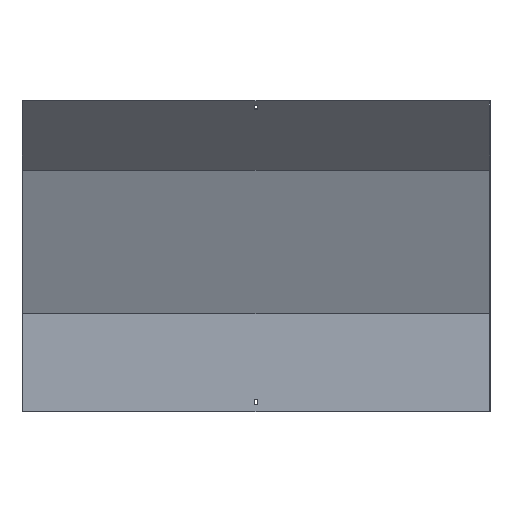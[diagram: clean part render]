
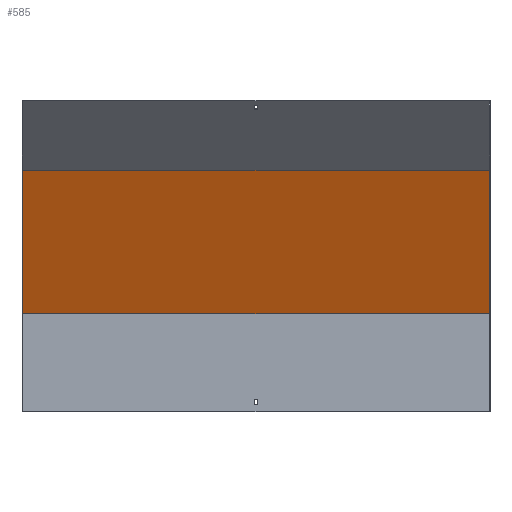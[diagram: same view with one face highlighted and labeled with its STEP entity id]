
A CAD part, front view. The second image highlights one B-rep face of the part: STEP entity #585.
In plain terms, the highlighted planar face has unit normal (0, -0.924, -0.383).
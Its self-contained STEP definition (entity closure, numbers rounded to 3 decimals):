
#4 = CARTESIAN_POINT ( 'NONE',  ( 400., 18.5, 168.68 ) ) ;
#55 = ORIENTED_EDGE ( 'NONE', *, *, #758, .F. ) ;
#84 = CARTESIAN_POINT ( 'NONE',  ( 401.5, 17.092, 172.08 ) ) ;
#85 = CARTESIAN_POINT ( 'NONE',  ( -400., 75.428, 31.243 ) ) ;
#111 = VERTEX_POINT ( 'NONE', #463 ) ;
#120 = VERTEX_POINT ( 'NONE', #580 ) ;
#162 = CARTESIAN_POINT ( 'NONE',  ( 400., 75.428, 31.243 ) ) ;
#286 = DIRECTION ( 'NONE',  ( 0., -0.383, 0.924 ) ) ;
#293 = CARTESIAN_POINT ( 'NONE',  ( -400., 18.5, 168.68 ) ) ;
#315 = VECTOR ( 'NONE', #433, 1000. ) ;
#403 = DIRECTION ( 'NONE',  ( 0., -0.924, -0.383 ) ) ;
#413 = EDGE_CURVE ( 'NONE', #766, #111, #676, .T. ) ;
#423 = LINE ( 'NONE', #691, #686 ) ;
#429 = CARTESIAN_POINT ( 'NONE',  ( 401.5, -83.431, 414.764 ) ) ;
#433 = DIRECTION ( 'NONE',  ( 0., -0.383, 0.924 ) ) ;
#463 = CARTESIAN_POINT ( 'NONE',  ( -400., -83.431, 414.764 ) ) ;
#480 = LINE ( 'NONE', #429, #569 ) ;
#487 = DIRECTION ( 'NONE',  ( -1., 0., 0. ) ) ;
#505 = AXIS2_PLACEMENT_3D ( 'NONE', #84, #403, #657 ) ;
#569 = VECTOR ( 'NONE', #487, 1000. ) ;
#580 = CARTESIAN_POINT ( 'NONE',  ( 400., -83.431, 414.764 ) ) ;
#585 = ADVANCED_FACE ( 'NONE', ( #588 ), #718, .T. ) ;
#588 = FACE_OUTER_BOUND ( 'NONE', #598, .T. ) ;
#598 = EDGE_LOOP ( 'NONE', ( #706, #55, #625, #665 ) ) ;
#619 = LINE ( 'NONE', #162, #315 ) ;
#621 = VERTEX_POINT ( 'NONE', #4 ) ;
#625 = ORIENTED_EDGE ( 'NONE', *, *, #768, .T. ) ;
#657 = DIRECTION ( 'NONE',  ( 0., 0.383, -0.924 ) ) ;
#665 = ORIENTED_EDGE ( 'NONE', *, *, #743, .T. ) ;
#676 = LINE ( 'NONE', #85, #767 ) ;
#679 = DIRECTION ( 'NONE',  ( -1., 0., 0. ) ) ;
#686 = VECTOR ( 'NONE', #679, 1000. ) ;
#691 = CARTESIAN_POINT ( 'NONE',  ( 401.5, 18.5, 168.68 ) ) ;
#706 = ORIENTED_EDGE ( 'NONE', *, *, #413, .F. ) ;
#718 = PLANE ( 'NONE',  #505 ) ;
#743 = EDGE_CURVE ( 'NONE', #120, #111, #480, .T. ) ;
#758 = EDGE_CURVE ( 'NONE', #621, #766, #423, .T. ) ;
#766 = VERTEX_POINT ( 'NONE', #293 ) ;
#767 = VECTOR ( 'NONE', #286, 1000. ) ;
#768 = EDGE_CURVE ( 'NONE', #621, #120, #619, .T. ) ;
